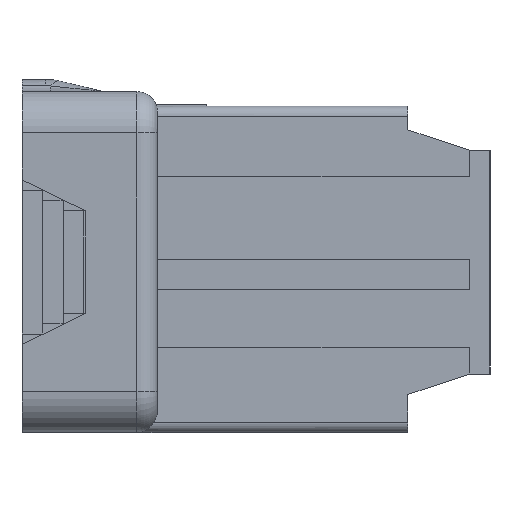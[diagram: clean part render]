
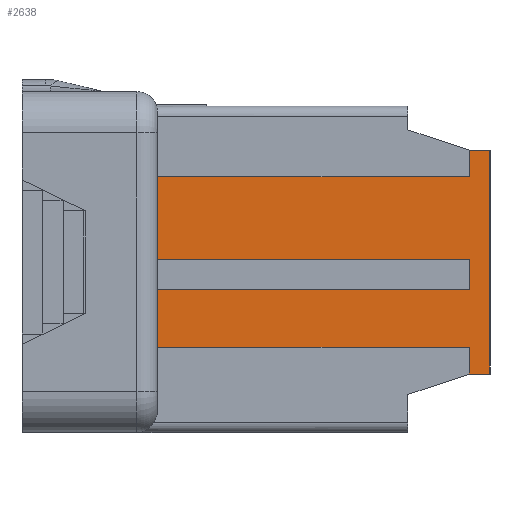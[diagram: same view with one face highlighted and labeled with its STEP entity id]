
A CAD part, front view. The second image highlights one B-rep face of the part: STEP entity #2638.
In plain terms, the highlighted planar face has unit normal (0, -1, 0).
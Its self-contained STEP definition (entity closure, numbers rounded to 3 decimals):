
#57=CARTESIAN_POINT('Line Origine',(-0.5,-7.95,5.45)) ;
#61=CARTESIAN_POINT('Vertex',(0.,-7.95,5.45)) ;
#63=CARTESIAN_POINT('Vertex',(-1.,-7.95,5.45)) ;
#406=CARTESIAN_POINT('Line Origine',(-0.5,-7.95,-5.45)) ;
#410=CARTESIAN_POINT('Vertex',(0.,-7.95,-5.45)) ;
#412=CARTESIAN_POINT('Vertex',(-1.,-7.95,-5.45)) ;
#497=CARTESIAN_POINT('Line Origine',(0.,-7.95,0.)) ;
#2523=CARTESIAN_POINT('Line Origine',(-8.6,-7.95,4.15)) ;
#2527=CARTESIAN_POINT('Vertex',(-16.2,-7.95,4.15)) ;
#2529=CARTESIAN_POINT('Vertex',(-1.,-7.95,4.15)) ;
#2567=CARTESIAN_POINT('Axis2P3D Location',(0.,-7.95,4.15)) ;
#2572=CARTESIAN_POINT('Line Origine',(-8.6,-7.95,-4.15)) ;
#2576=CARTESIAN_POINT('Vertex',(-16.2,-7.95,-4.15)) ;
#2578=CARTESIAN_POINT('Vertex',(-1.,-7.95,-4.15)) ;
#2581=CARTESIAN_POINT('Line Origine',(-1.,-7.95,-4.8)) ;
#2586=CARTESIAN_POINT('Line Origine',(-1.,-7.95,4.8)) ;
#2591=CARTESIAN_POINT('Line Origine',(-16.2,-7.95,2.15)) ;
#2595=CARTESIAN_POINT('Vertex',(-16.2,-7.95,0.15)) ;
#2598=CARTESIAN_POINT('Line Origine',(-8.6,-7.95,0.15)) ;
#2602=CARTESIAN_POINT('Vertex',(-1.,-7.95,0.15)) ;
#2605=CARTESIAN_POINT('Line Origine',(-1.,-7.95,-0.6)) ;
#2609=CARTESIAN_POINT('Vertex',(-1.,-7.95,-1.35)) ;
#2612=CARTESIAN_POINT('Line Origine',(-8.6,-7.95,-1.35)) ;
#2616=CARTESIAN_POINT('Vertex',(-16.2,-7.95,-1.35)) ;
#2619=CARTESIAN_POINT('Line Origine',(-16.2,-7.95,-2.75)) ;
#58=DIRECTION('Vector Direction',(-1.,0.,0.)) ;
#407=DIRECTION('Vector Direction',(-1.,0.,0.)) ;
#498=DIRECTION('Vector Direction',(0.,0.,1.)) ;
#2524=DIRECTION('Vector Direction',(1.,0.,0.)) ;
#2568=DIRECTION('Axis2P3D Direction',(0.,-1.,0.)) ;
#2569=DIRECTION('Axis2P3D XDirection',(0.,-0.,-1.)) ;
#2573=DIRECTION('Vector Direction',(1.,0.,0.)) ;
#2582=DIRECTION('Vector Direction',(0.,0.,-1.)) ;
#2587=DIRECTION('Vector Direction',(0.,0.,-1.)) ;
#2592=DIRECTION('Vector Direction',(0.,0.,-1.)) ;
#2599=DIRECTION('Vector Direction',(-1.,0.,0.)) ;
#2606=DIRECTION('Vector Direction',(0.,0.,1.)) ;
#2613=DIRECTION('Vector Direction',(-1.,0.,0.)) ;
#2620=DIRECTION('Vector Direction',(0.,0.,-1.)) ;
#2570=AXIS2_PLACEMENT_3D('Plane Axis2P3D',#2567,#2568,#2569) ;
#2625=ORIENTED_EDGE('',*,*,#2580,.T.) ;
#2626=ORIENTED_EDGE('',*,*,#2585,.T.) ;
#2627=ORIENTED_EDGE('',*,*,#414,.F.) ;
#2628=ORIENTED_EDGE('',*,*,#501,.T.) ;
#2629=ORIENTED_EDGE('',*,*,#65,.T.) ;
#2630=ORIENTED_EDGE('',*,*,#2590,.T.) ;
#2631=ORIENTED_EDGE('',*,*,#2531,.F.) ;
#2632=ORIENTED_EDGE('',*,*,#2597,.T.) ;
#2633=ORIENTED_EDGE('',*,*,#2604,.F.) ;
#2634=ORIENTED_EDGE('',*,*,#2611,.F.) ;
#2635=ORIENTED_EDGE('',*,*,#2618,.T.) ;
#2636=ORIENTED_EDGE('',*,*,#2623,.T.) ;
#59=VECTOR('Line Direction',#58,1.) ;
#408=VECTOR('Line Direction',#407,1.) ;
#499=VECTOR('Line Direction',#498,1.) ;
#2525=VECTOR('Line Direction',#2524,1.) ;
#2574=VECTOR('Line Direction',#2573,1.) ;
#2583=VECTOR('Line Direction',#2582,1.) ;
#2588=VECTOR('Line Direction',#2587,1.) ;
#2593=VECTOR('Line Direction',#2592,1.) ;
#2600=VECTOR('Line Direction',#2599,1.) ;
#2607=VECTOR('Line Direction',#2606,1.) ;
#2614=VECTOR('Line Direction',#2613,1.) ;
#2621=VECTOR('Line Direction',#2620,1.) ;
#2638=ADVANCED_FACE('\X2\FF8EFF9EFF83FF9EFF68FF70\X0\.5',(#2637),#2571,.T.) ;
#65=EDGE_CURVE('',#62,#64,#60,.T.) ;
#414=EDGE_CURVE('',#411,#413,#409,.T.) ;
#501=EDGE_CURVE('',#411,#62,#500,.T.) ;
#2531=EDGE_CURVE('',#2528,#2530,#2526,.T.) ;
#2580=EDGE_CURVE('',#2577,#2579,#2575,.T.) ;
#2585=EDGE_CURVE('',#2579,#413,#2584,.T.) ;
#2590=EDGE_CURVE('',#64,#2530,#2589,.T.) ;
#2597=EDGE_CURVE('',#2528,#2596,#2594,.T.) ;
#2604=EDGE_CURVE('',#2603,#2596,#2601,.T.) ;
#2611=EDGE_CURVE('',#2610,#2603,#2608,.T.) ;
#2618=EDGE_CURVE('',#2610,#2617,#2615,.T.) ;
#2623=EDGE_CURVE('',#2617,#2577,#2622,.T.) ;
#2624=EDGE_LOOP('',(#2625,#2626,#2627,#2628,#2629,#2630,#2631,#2632,#2633,#2634,#2635,#2636)) ;
#2637=FACE_OUTER_BOUND('',#2624,.T.) ;
#60=LINE('Line',#57,#59) ;
#409=LINE('Line',#406,#408) ;
#500=LINE('Line',#497,#499) ;
#2526=LINE('Line',#2523,#2525) ;
#2575=LINE('Line',#2572,#2574) ;
#2584=LINE('Line',#2581,#2583) ;
#2589=LINE('Line',#2586,#2588) ;
#2594=LINE('Line',#2591,#2593) ;
#2601=LINE('Line',#2598,#2600) ;
#2608=LINE('Line',#2605,#2607) ;
#2615=LINE('Line',#2612,#2614) ;
#2622=LINE('Line',#2619,#2621) ;
#2571=PLANE('',#2570) ;
#62=VERTEX_POINT('',#61) ;
#64=VERTEX_POINT('',#63) ;
#411=VERTEX_POINT('',#410) ;
#413=VERTEX_POINT('',#412) ;
#2528=VERTEX_POINT('',#2527) ;
#2530=VERTEX_POINT('',#2529) ;
#2577=VERTEX_POINT('',#2576) ;
#2579=VERTEX_POINT('',#2578) ;
#2596=VERTEX_POINT('',#2595) ;
#2603=VERTEX_POINT('',#2602) ;
#2610=VERTEX_POINT('',#2609) ;
#2617=VERTEX_POINT('',#2616) ;
